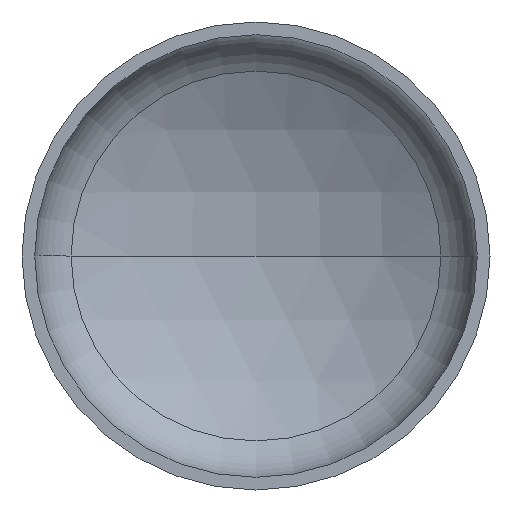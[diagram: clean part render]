
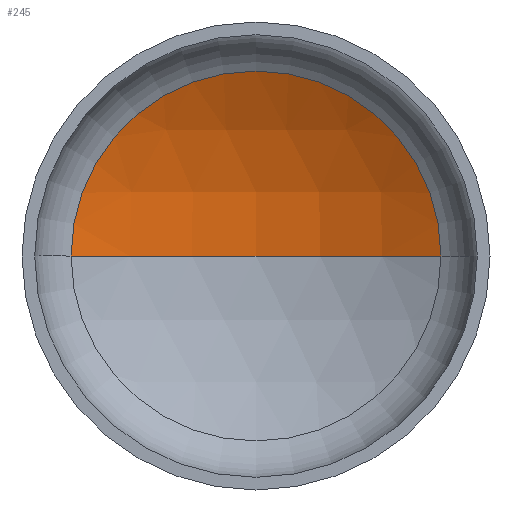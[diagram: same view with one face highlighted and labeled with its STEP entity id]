
A CAD part, front view. The second image highlights one B-rep face of the part: STEP entity #245.
In plain terms, the highlighted spherical face has radius 1120 mm.
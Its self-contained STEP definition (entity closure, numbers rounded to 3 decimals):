
#16 = EDGE_LOOP ( 'NONE', ( #375, #119, #61 ) ) ;
#17 = AXIS2_PLACEMENT_3D ( 'NONE', #186, #268, #319 ) ;
#22 = AXIS2_PLACEMENT_3D ( 'NONE', #72, #338, #270 ) ;
#23 = AXIS2_PLACEMENT_3D ( 'NONE', #292, #153, #155 ) ;
#33 = VERTEX_POINT ( 'NONE', #251 ) ;
#46 = VERTEX_POINT ( 'NONE', #282 ) ;
#47 = AXIS2_PLACEMENT_3D ( 'NONE', #215, #224, #254 ) ;
#61 = ORIENTED_EDGE ( 'NONE', *, *, #351, .T. ) ;
#72 = CARTESIAN_POINT ( 'NONE',  ( 0., -666.903, 0. ) ) ;
#75 = CIRCLE ( 'NONE', #22, 1120. ) ;
#119 = ORIENTED_EDGE ( 'NONE', *, *, #357, .T. ) ;
#127 = VERTEX_POINT ( 'NONE', #221 ) ;
#153 = DIRECTION ( 'NONE',  ( 0., -1., 0. ) ) ;
#154 = FACE_OUTER_BOUND ( 'NONE', #16, .T. ) ;
#155 = DIRECTION ( 'NONE',  ( 1., 0., 0. ) ) ;
#161 = SPHERICAL_SURFACE ( 'NONE', #47, 1120. ) ;
#186 = CARTESIAN_POINT ( 'NONE',  ( 0., -666.903, 0. ) ) ;
#215 = CARTESIAN_POINT ( 'NONE',  ( 0., -666.903, 0. ) ) ;
#221 = CARTESIAN_POINT ( 'NONE',  ( 0., 453.097, 0. ) ) ;
#224 = DIRECTION ( 'NONE',  ( 0., 0., -1. ) ) ;
#245 = ADVANCED_FACE ( 'NONE', ( #154 ), #161, .F. ) ;
#251 = CARTESIAN_POINT ( 'NONE',  ( 553.193, 306.944, 0. ) ) ;
#254 = DIRECTION ( 'NONE',  ( -1., 0., 0. ) ) ;
#268 = DIRECTION ( 'NONE',  ( 0., 0., 1. ) ) ;
#270 = DIRECTION ( 'NONE',  ( -1., 0., 0. ) ) ;
#282 = CARTESIAN_POINT ( 'NONE',  ( -553.193, 306.944, 0. ) ) ;
#292 = CARTESIAN_POINT ( 'NONE',  ( 0., 306.944, 0. ) ) ;
#319 = DIRECTION ( 'NONE',  ( 1., 0., 0. ) ) ;
#331 = CIRCLE ( 'NONE', #23, 553.193 ) ;
#338 = DIRECTION ( 'NONE',  ( 0., 0., -1. ) ) ;
#351 = EDGE_CURVE ( 'NONE', #33, #46, #331, .T. ) ;
#357 = EDGE_CURVE ( 'NONE', #127, #33, #75, .T. ) ;
#364 = EDGE_CURVE ( 'NONE', #127, #46, #369, .T. ) ;
#369 = CIRCLE ( 'NONE', #17, 1120. ) ;
#375 = ORIENTED_EDGE ( 'NONE', *, *, #364, .F. ) ;
